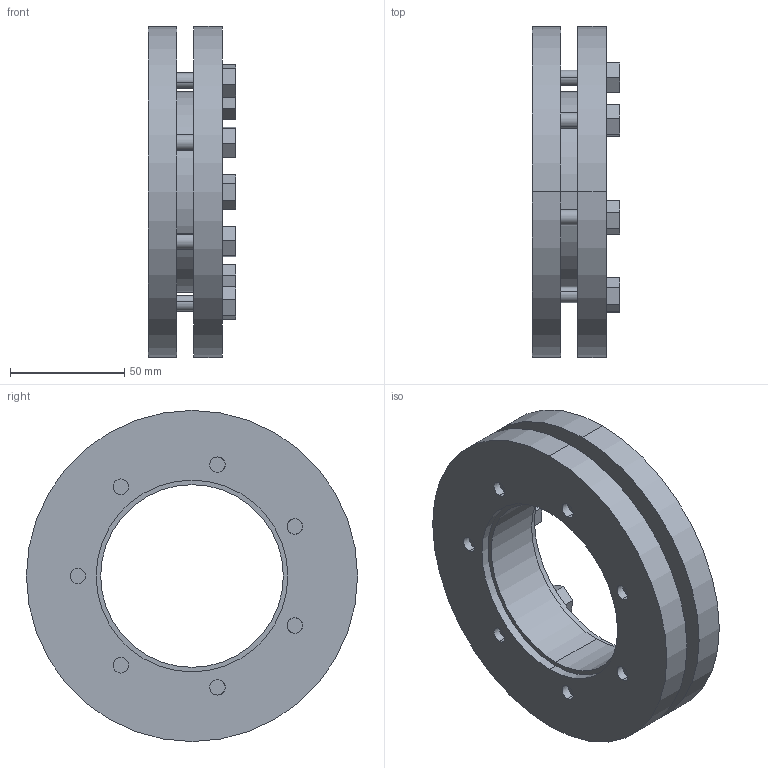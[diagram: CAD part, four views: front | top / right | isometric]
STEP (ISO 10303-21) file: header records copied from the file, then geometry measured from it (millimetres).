
FILE_DESCRIPTION (( 'STEP AP203' ), '1' );
FILE_NAME ('SSD-80.STEP', '2009-09-29T17:41:49', ( 'USER' ), ( 'HOME' ), 'SwSTEP 2.0', 'SolidWorks 2007', '' );
FILE_SCHEMA (( 'CONFIG_CONTROL_DESIGN' ));
Length unit declared in the file: millimetre
Products named in the file (1): SSD-80
Bounding box: 38.5 x 145 x 145 mm (x, y, z)
Volume: 298377.8 mm3; surface area: 76557.5 mm2
Topology: 8 solids, 8 shells, 123 faces, 288 edges, 192 vertices
Faces by surface type: plane 69, cylinder 54
Entity records: 3673 total; most frequent: DIRECTION 644, CARTESIAN_POINT 604, ORIENTED_EDGE 576, EDGE_CURVE 288, AXIS2_PLACEMENT_3D 232, VERTEX_POINT 192, LINE 180, VECTOR 180
